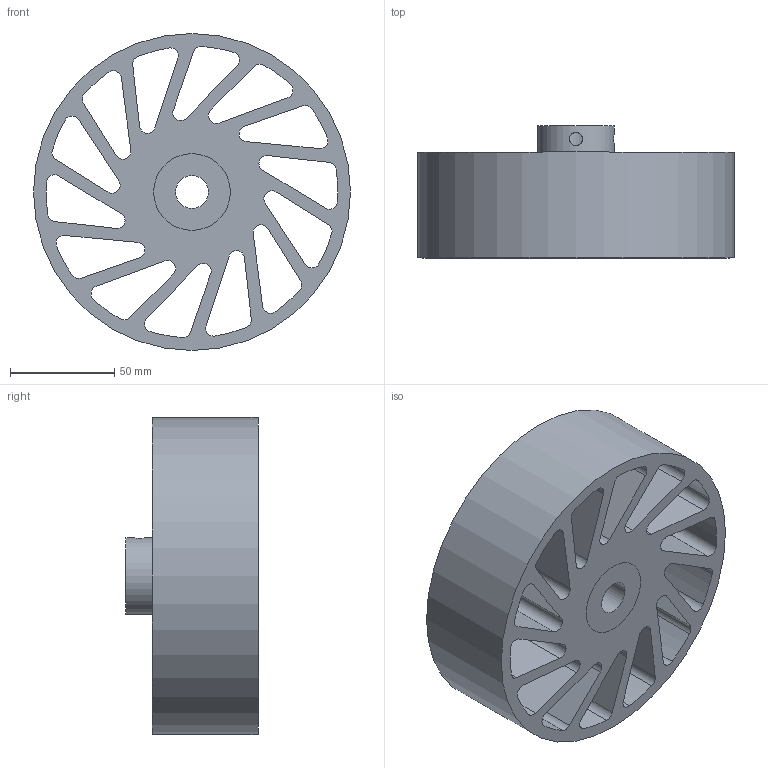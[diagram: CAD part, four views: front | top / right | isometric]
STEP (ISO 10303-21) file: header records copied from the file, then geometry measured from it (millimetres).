
FILE_DESCRIPTION(/* description */ (''),/* implementation_level */ '2;1');
FILE_NAME(/* name */ 'NCW-610-XXX-YYY.stp',/* time_stamp */ '2023-02-02T15:37:38-06:00',/* author */ ('AG'),/* organization */ ('Meridian Laboratory'),/* preprocessor_version */ 'ST-DEVELOPER v18.1',/* originating_system */ 'Autodesk Inventor 2022',/* authorisation */ '');
FILE_SCHEMA (('AUTOMOTIVE_DESIGN { 1 0 10303 214 3 1 1 }'));
Length unit declared in the file: inch
Products named in the file (1): NCW-540
Bounding box: 152.4 x 63.5 x 152.4 mm (x, y, z)
Volume: 519853.8 mm3; surface area: 134878.5 mm2
Topology: 2 solids, 2 shells, 94 faces, 276 edges, 186 vertices
Faces by surface type: cylinder 62, plane 32
Full cylindrical faces by diameter (mm): 6.35 x2, 15.9 x1, 36.83 x2, 152.4 x1
Entity records: 3518 total; most frequent: CARTESIAN_POINT 697, DIRECTION 576, ORIENTED_EDGE 552, EDGE_CURVE 276, AXIS2_PLACEMENT_3D 215, VERTEX_POINT 186, LINE 146, VECTOR 146
